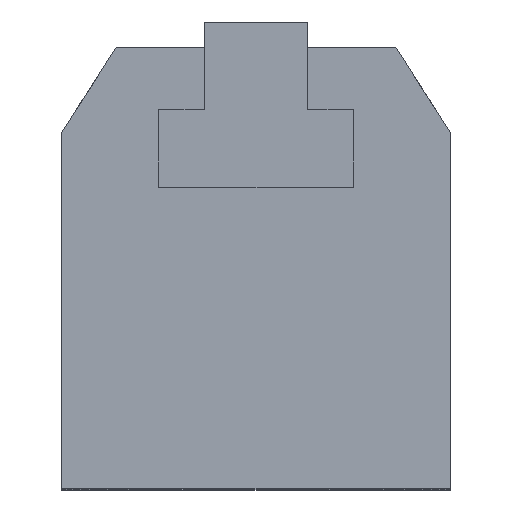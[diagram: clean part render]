
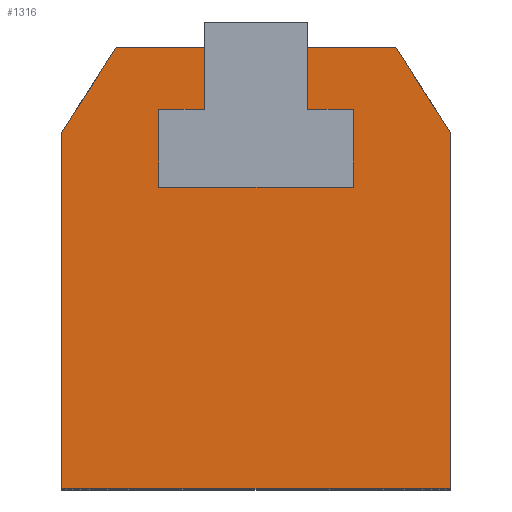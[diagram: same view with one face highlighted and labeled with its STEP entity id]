
A CAD part, top view. The second image highlights one B-rep face of the part: STEP entity #1316.
In plain terms, the highlighted planar face has unit normal (0, 0, 1).
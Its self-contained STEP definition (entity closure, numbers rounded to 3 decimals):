
#49 = LINE ( 'NONE', #1247, #5659 ) ;
#65 = VERTEX_POINT ( 'NONE', #986 ) ;
#134 = VECTOR ( 'NONE', #6904, 1000. ) ;
#255 = CARTESIAN_POINT ( 'NONE',  ( -30., 55., 62.5 ) ) ;
#325 = EDGE_CURVE ( 'NONE', #1466, #65, #6248, .T. ) ;
#508 = VECTOR ( 'NONE', #7332, 1000. ) ;
#571 = VECTOR ( 'NONE', #6448, 1000. ) ;
#782 = EDGE_CURVE ( 'NONE', #5725, #2913, #2156, .T. ) ;
#986 = CARTESIAN_POINT ( 'NONE',  ( -8., 58.5, 62.5 ) ) ;
#1017 = VERTEX_POINT ( 'NONE', #5727 ) ;
#1125 = CARTESIAN_POINT ( 'NONE',  ( -15., 58.5, 62.5 ) ) ;
#1142 = VERTEX_POINT ( 'NONE', #4993 ) ;
#1143 = DIRECTION ( 'NONE',  ( -1., 0., 0. ) ) ;
#1247 = CARTESIAN_POINT ( 'NONE',  ( 8., 58.5, 62.5 ) ) ;
#1316 = ADVANCED_FACE ( 'NONE', ( #4356 ), #1319, .F. ) ;
#1319 = PLANE ( 'NONE',  #6305 ) ;
#1411 = DIRECTION ( 'NONE',  ( -1., 0., 0. ) ) ;
#1466 = VERTEX_POINT ( 'NONE', #6234 ) ;
#1555 = ORIENTED_EDGE ( 'NONE', *, *, #4249, .F. ) ;
#1612 = ORIENTED_EDGE ( 'NONE', *, *, #6426, .T. ) ;
#1617 = ORIENTED_EDGE ( 'NONE', *, *, #7224, .T. ) ;
#1674 = CARTESIAN_POINT ( 'NONE',  ( 21.6, 68., 62.5 ) ) ;
#1702 = LINE ( 'NONE', #3822, #134 ) ;
#1881 = VECTOR ( 'NONE', #5566, 1000. ) ;
#2093 = ORIENTED_EDGE ( 'NONE', *, *, #7335, .T. ) ;
#2156 = LINE ( 'NONE', #3512, #571 ) ;
#2189 = EDGE_CURVE ( 'NONE', #2913, #6727, #5281, .T. ) ;
#2190 = EDGE_LOOP ( 'NONE', ( #6815, #6615, #3617, #6865, #6653, #6491, #1555, #6000, #1617, #2093, #1612, #3294, #5076, #4103 ) ) ;
#2193 = VECTOR ( 'NONE', #3425, 1000. ) ;
#2209 = VERTEX_POINT ( 'NONE', #4766 ) ;
#2288 = CARTESIAN_POINT ( 'NONE',  ( 15., 58.5, 62.5 ) ) ;
#2367 = EDGE_CURVE ( 'NONE', #6264, #5725, #4996, .T. ) ;
#2404 = EDGE_CURVE ( 'NONE', #6727, #3989, #49, .T. ) ;
#2605 = VERTEX_POINT ( 'NONE', #3271 ) ;
#2607 = DIRECTION ( 'NONE',  ( 0., -1., 0. ) ) ;
#2913 = VERTEX_POINT ( 'NONE', #7318 ) ;
#2949 = EDGE_CURVE ( 'NONE', #3606, #6264, #5649, .T. ) ;
#2958 = VECTOR ( 'NONE', #6703, 1000. ) ;
#3011 = VERTEX_POINT ( 'NONE', #5136 ) ;
#3045 = CARTESIAN_POINT ( 'NONE',  ( 30., 55., 62.5 ) ) ;
#3146 = CARTESIAN_POINT ( 'NONE',  ( 21.6, 68., 62.5 ) ) ;
#3183 = CARTESIAN_POINT ( 'NONE',  ( -15., 58.5, 62.5 ) ) ;
#3271 = CARTESIAN_POINT ( 'NONE',  ( 30., 55., 62.5 ) ) ;
#3294 = ORIENTED_EDGE ( 'NONE', *, *, #4859, .T. ) ;
#3314 = EDGE_CURVE ( 'NONE', #2209, #2605, #1702, .T. ) ;
#3389 = VECTOR ( 'NONE', #6644, 1000. ) ;
#3425 = DIRECTION ( 'NONE',  ( -1., 0., 0. ) ) ;
#3427 = VECTOR ( 'NONE', #2607, 1000. ) ;
#3512 = CARTESIAN_POINT ( 'NONE',  ( 15., 46.5, 62.5 ) ) ;
#3606 = VERTEX_POINT ( 'NONE', #1125 ) ;
#3617 = ORIENTED_EDGE ( 'NONE', *, *, #2189, .F. ) ;
#3728 = CARTESIAN_POINT ( 'NONE',  ( -15., 46.5, 62.5 ) ) ;
#3793 = DIRECTION ( 'NONE',  ( 0., -1., 0. ) ) ;
#3822 = CARTESIAN_POINT ( 'NONE',  ( 30., 0., 62.5 ) ) ;
#3847 = VECTOR ( 'NONE', #1143, 1000. ) ;
#3937 = VERTEX_POINT ( 'NONE', #1674 ) ;
#3986 = CARTESIAN_POINT ( 'NONE',  ( -21.6, 68., 62.5 ) ) ;
#3989 = VERTEX_POINT ( 'NONE', #6415 ) ;
#4103 = ORIENTED_EDGE ( 'NONE', *, *, #7036, .T. ) ;
#4249 = EDGE_CURVE ( 'NONE', #65, #3606, #5454, .T. ) ;
#4254 = CARTESIAN_POINT ( 'NONE',  ( -15., 46.5, 62.5 ) ) ;
#4356 = FACE_OUTER_BOUND ( 'NONE', #2190, .T. ) ;
#4540 = DIRECTION ( 'NONE',  ( -0.543, -0.84, 0. ) ) ;
#4564 = EDGE_CURVE ( 'NONE', #3937, #3989, #6277, .T. ) ;
#4739 = LINE ( 'NONE', #3045, #2958 ) ;
#4766 = CARTESIAN_POINT ( 'NONE',  ( 30., 0., 62.5 ) ) ;
#4845 = DIRECTION ( 'NONE',  ( 0., 1., 0. ) ) ;
#4859 = EDGE_CURVE ( 'NONE', #1142, #2209, #5258, .T. ) ;
#4868 = CARTESIAN_POINT ( 'NONE',  ( 15., 46.5, 62.5 ) ) ;
#4993 = CARTESIAN_POINT ( 'NONE',  ( -30., 0., 62.5 ) ) ;
#4996 = LINE ( 'NONE', #4254, #3389 ) ;
#5006 = DIRECTION ( 'NONE',  ( -1., 0., 0. ) ) ;
#5076 = ORIENTED_EDGE ( 'NONE', *, *, #3314, .T. ) ;
#5136 = CARTESIAN_POINT ( 'NONE',  ( -30., 55., 62.5 ) ) ;
#5182 = VECTOR ( 'NONE', #4540, 1000. ) ;
#5258 = LINE ( 'NONE', #5588, #1881 ) ;
#5281 = LINE ( 'NONE', #2288, #2193 ) ;
#5408 = LINE ( 'NONE', #255, #5505 ) ;
#5454 = LINE ( 'NONE', #7337, #7506 ) ;
#5455 = VECTOR ( 'NONE', #6791, 1000. ) ;
#5503 = CARTESIAN_POINT ( 'NONE',  ( 0., 0., 62.5 ) ) ;
#5505 = VECTOR ( 'NONE', #3793, 1000. ) ;
#5566 = DIRECTION ( 'NONE',  ( 1., 0., 0. ) ) ;
#5588 = CARTESIAN_POINT ( 'NONE',  ( -30., 0., 62.5 ) ) ;
#5597 = CARTESIAN_POINT ( 'NONE',  ( -8., 72., 62.5 ) ) ;
#5649 = LINE ( 'NONE', #3183, #5455 ) ;
#5659 = VECTOR ( 'NONE', #4845, 1000. ) ;
#5725 = VERTEX_POINT ( 'NONE', #4868 ) ;
#5727 = CARTESIAN_POINT ( 'NONE',  ( -21.6, 68., 62.5 ) ) ;
#6000 = ORIENTED_EDGE ( 'NONE', *, *, #325, .F. ) ;
#6210 = DIRECTION ( 'NONE',  ( 0., 0., -1. ) ) ;
#6234 = CARTESIAN_POINT ( 'NONE',  ( -8., 68., 62.5 ) ) ;
#6248 = LINE ( 'NONE', #5597, #3427 ) ;
#6264 = VERTEX_POINT ( 'NONE', #3728 ) ;
#6277 = LINE ( 'NONE', #7142, #3847 ) ;
#6305 = AXIS2_PLACEMENT_3D ( 'NONE', #5503, #6210, #5006 ) ;
#6415 = CARTESIAN_POINT ( 'NONE',  ( 8., 68., 62.5 ) ) ;
#6426 = EDGE_CURVE ( 'NONE', #3011, #1142, #5408, .T. ) ;
#6448 = DIRECTION ( 'NONE',  ( 0., 1., 0. ) ) ;
#6491 = ORIENTED_EDGE ( 'NONE', *, *, #2949, .F. ) ;
#6615 = ORIENTED_EDGE ( 'NONE', *, *, #2404, .F. ) ;
#6644 = DIRECTION ( 'NONE',  ( 1., 0., 0. ) ) ;
#6653 = ORIENTED_EDGE ( 'NONE', *, *, #2367, .F. ) ;
#6703 = DIRECTION ( 'NONE',  ( -0.543, 0.84, 0. ) ) ;
#6727 = VERTEX_POINT ( 'NONE', #6892 ) ;
#6757 = LINE ( 'NONE', #3986, #5182 ) ;
#6791 = DIRECTION ( 'NONE',  ( 0., -1., 0. ) ) ;
#6815 = ORIENTED_EDGE ( 'NONE', *, *, #4564, .T. ) ;
#6865 = ORIENTED_EDGE ( 'NONE', *, *, #782, .F. ) ;
#6892 = CARTESIAN_POINT ( 'NONE',  ( 8., 58.5, 62.5 ) ) ;
#6904 = DIRECTION ( 'NONE',  ( 0., 1., 0. ) ) ;
#7036 = EDGE_CURVE ( 'NONE', #2605, #3937, #4739, .T. ) ;
#7142 = CARTESIAN_POINT ( 'NONE',  ( 21.6, 68., 62.5 ) ) ;
#7224 = EDGE_CURVE ( 'NONE', #1466, #1017, #7314, .T. ) ;
#7314 = LINE ( 'NONE', #3146, #508 ) ;
#7318 = CARTESIAN_POINT ( 'NONE',  ( 15., 58.5, 62.5 ) ) ;
#7332 = DIRECTION ( 'NONE',  ( -1., 0., 0. ) ) ;
#7335 = EDGE_CURVE ( 'NONE', #1017, #3011, #6757, .T. ) ;
#7337 = CARTESIAN_POINT ( 'NONE',  ( -8., 58.5, 62.5 ) ) ;
#7506 = VECTOR ( 'NONE', #1411, 1000. ) ;
